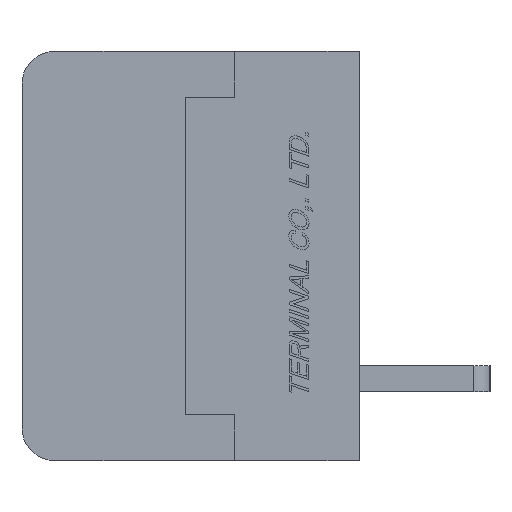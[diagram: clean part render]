
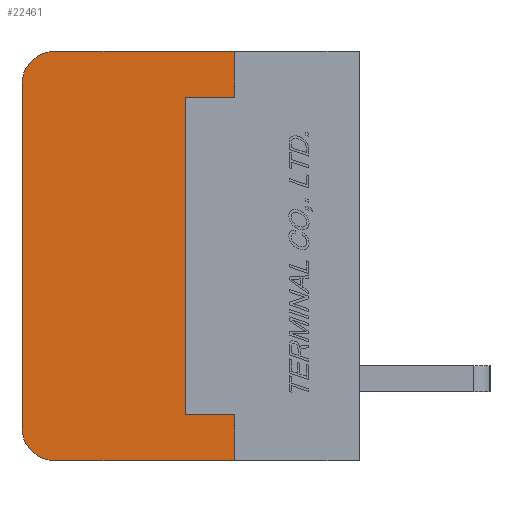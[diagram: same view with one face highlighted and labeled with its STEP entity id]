
A CAD part, left-side view. The second image highlights one B-rep face of the part: STEP entity #22461.
In plain terms, the highlighted planar face has unit normal (-1, 0, 0).
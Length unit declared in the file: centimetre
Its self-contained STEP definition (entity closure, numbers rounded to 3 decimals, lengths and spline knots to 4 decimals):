
#1229=CIRCLE('',#38177,0.1);
#1231=CIRCLE('',#38180,0.1);
#3149=VERTEX_POINT('',#35216);
#3150=VERTEX_POINT('',#35218);
#3152=VERTEX_POINT('',#35224);
#3154=VERTEX_POINT('',#35230);
#3155=VERTEX_POINT('',#35237);
#3156=VERTEX_POINT('',#35238);
#3157=VERTEX_POINT('',#35241);
#3158=VERTEX_POINT('',#35243);
#3159=VERTEX_POINT('',#35245);
#3160=VERTEX_POINT('',#35247);
#5521=VECTOR('',#27664,1.);
#5527=VECTOR('',#27684,1.);
#5528=VECTOR('',#27685,1.);
#5529=VECTOR('',#27686,1.);
#5530=VECTOR('',#27687,1.);
#5531=VECTOR('',#27688,1.);
#5532=VECTOR('',#27689,1.);
#5533=VECTOR('',#27690,1.);
#7961=LINE('',#35217,#5521);
#7967=LINE('',#35236,#5527);
#7968=LINE('',#35239,#5528);
#7969=LINE('',#35240,#5529);
#7970=LINE('',#35242,#5530);
#7971=LINE('',#35244,#5531);
#7972=LINE('',#35246,#5532);
#7973=LINE('',#35248,#5533);
#11270=EDGE_CURVE('',#3149,#3150,#7961,.T.);
#11274=EDGE_CURVE('',#3152,#3149,#1229,.T.);
#11276=EDGE_CURVE('',#3150,#3154,#1231,.T.);
#11280=EDGE_CURVE('',#3155,#3156,#7967,.T.);
#11281=EDGE_CURVE('',#3154,#3155,#7968,.T.);
#11282=EDGE_CURVE('',#3157,#3152,#7969,.T.);
#11283=EDGE_CURVE('',#3158,#3157,#7970,.T.);
#11284=EDGE_CURVE('',#3159,#3158,#7971,.T.);
#11285=EDGE_CURVE('',#3160,#3159,#7972,.T.);
#11286=EDGE_CURVE('',#3156,#3160,#7973,.T.);
#17482=ORIENTED_EDGE('',*,*,#11280,.F.);
#17483=ORIENTED_EDGE('',*,*,#11281,.F.);
#17484=ORIENTED_EDGE('',*,*,#11276,.F.);
#17485=ORIENTED_EDGE('',*,*,#11270,.F.);
#17486=ORIENTED_EDGE('',*,*,#11274,.F.);
#17487=ORIENTED_EDGE('',*,*,#11282,.F.);
#17488=ORIENTED_EDGE('',*,*,#11283,.F.);
#17489=ORIENTED_EDGE('',*,*,#11284,.F.);
#17490=ORIENTED_EDGE('',*,*,#11285,.F.);
#17491=ORIENTED_EDGE('',*,*,#11286,.F.);
#19784=EDGE_LOOP('',(#17482,#17483,#17484,#17485,#17486,#17487,#17488,#17489,
#17490,#17491));
#21164=FACE_BOUND('',#19784,.T.);
#22461=ADVANCED_FACE('',(#21164),#23392,.F.);
#23392=PLANE('',#38182);
#27664=DIRECTION('',(0.,0.,1.));
#27671=DIRECTION('',(1.,0.,0.));
#27672=DIRECTION('',(0.,0.,-0.1));
#27677=DIRECTION('',(1.,0.,0.));
#27678=DIRECTION('',(0.,0.,-0.1));
#27683=DIRECTION('',(1.,0.,0.));
#27684=DIRECTION('',(0.,0.,-1.));
#27685=DIRECTION('',(0.,-1.,0.));
#27686=DIRECTION('',(0.,1.,0.));
#27687=DIRECTION('',(0.,0.,-1.));
#27688=DIRECTION('',(0.,-1.,0.));
#27689=DIRECTION('',(0.,0.,-1.));
#27690=DIRECTION('',(0.,1.,0.));
#35216=CARTESIAN_POINT('',(-0.762,1.03,-0.525));
#35217=CARTESIAN_POINT('',(-0.762,1.03,-0.525));
#35218=CARTESIAN_POINT('',(-0.762,1.03,0.525));
#35224=CARTESIAN_POINT('',(-0.762,0.93,-0.625));
#35225=CARTESIAN_POINT('',(-0.762,0.93,-0.525));
#35229=CARTESIAN_POINT('',(-0.762,0.93,0.525));
#35230=CARTESIAN_POINT('',(-0.762,0.93,0.625));
#35235=CARTESIAN_POINT('',(-0.762,0.5047,0.));
#35236=CARTESIAN_POINT('',(-0.762,0.38,0.625));
#35237=CARTESIAN_POINT('',(-0.762,0.38,0.625));
#35238=CARTESIAN_POINT('',(-0.762,0.38,0.485));
#35239=CARTESIAN_POINT('',(-0.762,0.93,0.625));
#35240=CARTESIAN_POINT('',(-0.762,0.,-0.625));
#35241=CARTESIAN_POINT('',(-0.762,0.38,-0.625));
#35242=CARTESIAN_POINT('',(-0.762,0.38,-0.485));
#35243=CARTESIAN_POINT('',(-0.762,0.38,-0.485));
#35244=CARTESIAN_POINT('',(-0.762,0.53,-0.485));
#35245=CARTESIAN_POINT('',(-0.762,0.53,-0.485));
#35246=CARTESIAN_POINT('',(-0.762,0.53,0.485));
#35247=CARTESIAN_POINT('',(-0.762,0.53,0.485));
#35248=CARTESIAN_POINT('',(-0.762,0.38,0.485));
#38177=AXIS2_PLACEMENT_3D('',#35225,#27671,#27672);
#38180=AXIS2_PLACEMENT_3D('',#35229,#27677,#27678);
#38182=AXIS2_PLACEMENT_3D('',#35235,#27683,$);
